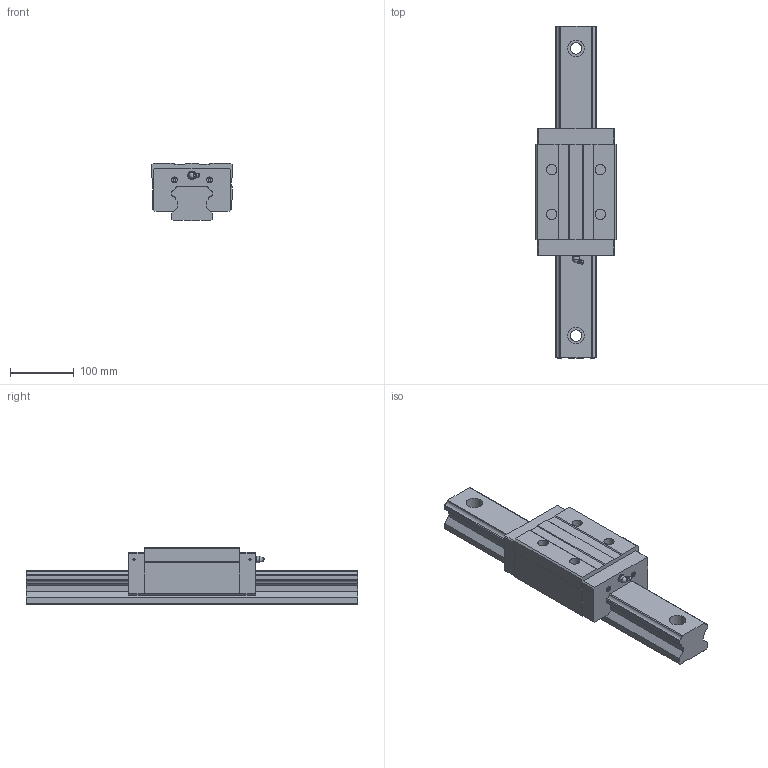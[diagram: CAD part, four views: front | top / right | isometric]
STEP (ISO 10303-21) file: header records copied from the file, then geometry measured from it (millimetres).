
FILE_DESCRIPTION(/* description */ (''),/* implementation_level */ '2;1');
FILE_NAME(/* name */ 'MSA65S',/* time_stamp */ '2005-12-26T16:35:16+08:00',/* author */ (''),/* organization */ (''),/* preprocessor_version */ 'ST-DEVELOPER v9',/* originating_system */ 'UGS - NX 3.0',/* authorisation */ '');
FILE_SCHEMA (('CONFIG_CONTROL_DESIGN'));
Length unit declared in the file: millimetre
Products named in the file (1): kevi37F33h5m
Bounding box: 126 x 520 x 90 mm (x, y, z)
Volume: 2804503.1 mm3; surface area: 259416.1 mm2
Topology: 3 solids, 3 shells, 180 faces, 451 edges, 298 vertices
Faces by surface type: plane 122, cylinder 47, torus 7, sphere 2, cone 1, bspline 1
Full cylindrical faces by diameter (mm): 3.3 x4, 4.5 x4, 9 x4, 10 x1, 13 x2, 16 x4, 18 x4, 26 x4
Entity records: 5382 total; most frequent: CARTESIAN_POINT 1070, DIRECTION 863, ORIENTED_EDGE 826, EDGE_CURVE 413, AXIS2_PLACEMENT_3D 293, VERTEX_POINT 292, LINE 277, VECTOR 277
